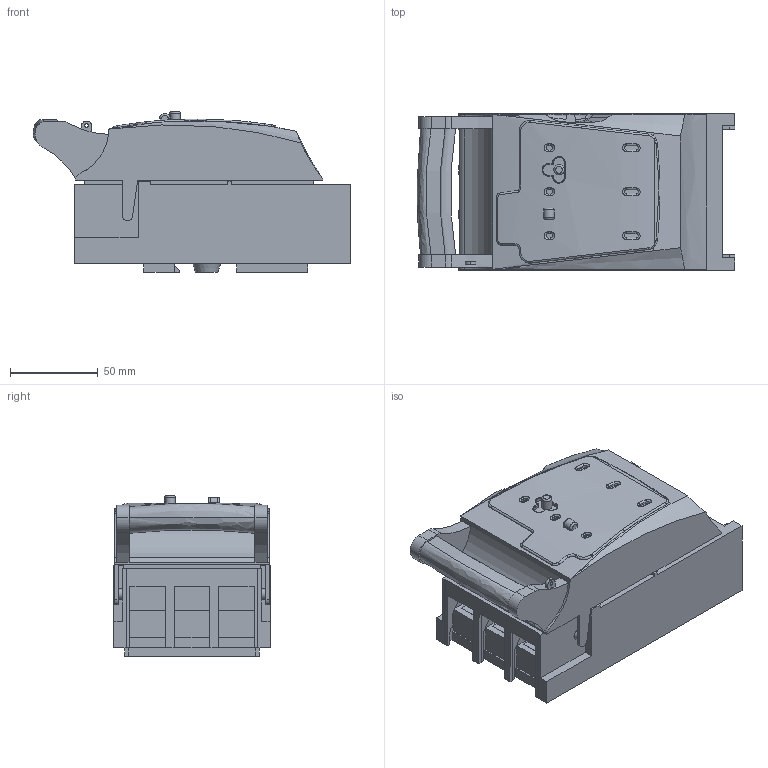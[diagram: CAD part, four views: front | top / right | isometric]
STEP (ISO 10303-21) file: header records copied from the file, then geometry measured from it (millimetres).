
FILE_DESCRIPTION(/* description */ (''),/* implementation_level */ '2;1');
FILE_NAME(/* name */ '335005_SECC 3P BS NH000 CONEX. BRIDA.stp',/* time_stamp */ '2021-11-05T14:33:20+01:00',/* author */ (''),/* organization */ (''),/* preprocessor_version */ 'ST-DEVELOPER v18.1',/* originating_system */ 'SIEMENS PLM Software NX 1992',/* authorisation */ '');
FILE_SCHEMA (('AUTOMOTIVE_DESIGN { 1 0 10303 214 3 1 1 1 }'));
Length unit declared in the file: millimetre
Products named in the file (1): 335005_SECC 3P BS NH000 CONEX. BRIDA
Bounding box: 180.71 x 89 x 91.5 mm (x, y, z)
Volume: 869772 mm3; surface area: 100926.2 mm2
Topology: 1 solids, 1 shells, 518 faces, 1412 edges, 918 vertices
Faces by surface type: plane 351, cylinder 95, torus 50, bspline 18, extrusion 2, cone 2
Full cylindrical faces by diameter (mm): 2 x1, 5.8 x2, 5.86 x1, 6.5 x2, 8.5 x6
Entity records: 21326 total; most frequent: CARTESIAN_POINT 5085, ORIENTED_EDGE 2782, DIRECTION 2311, EDGE_CURVE 1391, VECTOR 987, LINE 985, VERTEX_POINT 914, AXIS2_PLACEMENT_3D 662
